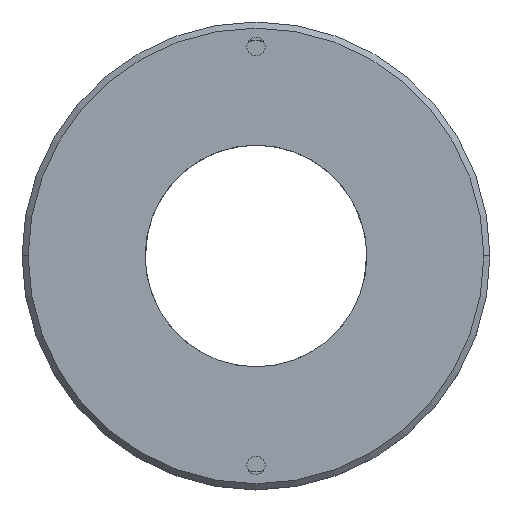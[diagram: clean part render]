
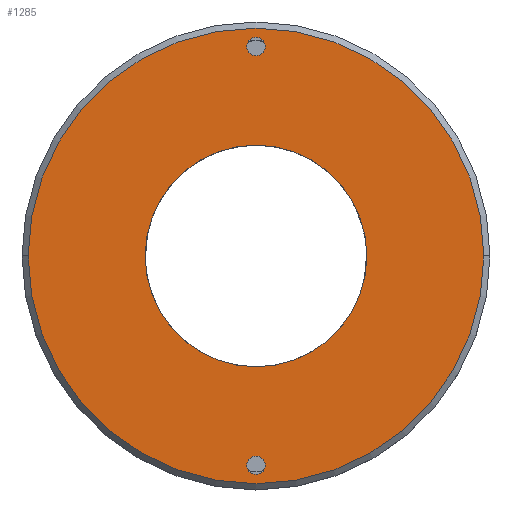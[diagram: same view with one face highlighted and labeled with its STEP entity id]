
A CAD part, top view. The second image highlights one B-rep face of the part: STEP entity #1285.
In plain terms, the highlighted planar face has unit normal (0, 0, 1).
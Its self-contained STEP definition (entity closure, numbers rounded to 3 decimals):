
#37 = DIRECTION ( 'NONE',  ( 0., 0., 1. ) ) ;
#47 = EDGE_LOOP ( 'NONE', ( #765, #622 ) ) ;
#69 = FACE_BOUND ( 'NONE', #901, .T. ) ;
#73 = DIRECTION ( 'NONE',  ( 0., 0., 1. ) ) ;
#80 = DIRECTION ( 'NONE',  ( 1., 0., 0. ) ) ;
#165 = AXIS2_PLACEMENT_3D ( 'NONE', #621, #73, #80 ) ;
#181 = ORIENTED_EDGE ( 'NONE', *, *, #1111, .F. ) ;
#246 = CIRCLE ( 'NONE', #579, 0.75 ) ;
#252 = DIRECTION ( 'NONE',  ( 1., 0., 0. ) ) ;
#276 = VERTEX_POINT ( 'NONE', #1140 ) ;
#278 = DIRECTION ( 'NONE',  ( 0., 0., 1. ) ) ;
#279 = CARTESIAN_POINT ( 'NONE',  ( 7.673, -17.947, 12. ) ) ;
#298 = AXIS2_PLACEMENT_3D ( 'NONE', #1277, #1275, #332 ) ;
#332 = DIRECTION ( 'NONE',  ( 1., 0., 0. ) ) ;
#344 = EDGE_LOOP ( 'NONE', ( #594, #755 ) ) ;
#371 = CARTESIAN_POINT ( 'NONE',  ( 6.923, -0.947, 12. ) ) ;
#372 = CARTESIAN_POINT ( 'NONE',  ( 7.673, 16.053, 12. ) ) ;
#373 = FACE_BOUND ( 'NONE', #344, .T. ) ;
#402 = AXIS2_PLACEMENT_3D ( 'NONE', #912, #917, #812 ) ;
#403 = CIRCLE ( 'NONE', #1389, 0.75 ) ;
#417 = EDGE_CURVE ( 'NONE', #276, #458, #545, .T. ) ;
#424 = CIRCLE ( 'NONE', #1359, 18.5 ) ;
#458 = VERTEX_POINT ( 'NONE', #739 ) ;
#508 = VERTEX_POINT ( 'NONE', #372 ) ;
#519 = VERTEX_POINT ( 'NONE', #279 ) ;
#523 = ORIENTED_EDGE ( 'NONE', *, *, #1193, .F. ) ;
#536 = AXIS2_PLACEMENT_3D ( 'NONE', #1350, #37, #1341 ) ;
#538 = PLANE ( 'NONE',  #165 ) ;
#545 = CIRCLE ( 'NONE', #536, 9. ) ;
#572 = EDGE_CURVE ( 'NONE', #605, #519, #1064, .T. ) ;
#579 = AXIS2_PLACEMENT_3D ( 'NONE', #1225, #1222, #1117 ) ;
#594 = ORIENTED_EDGE ( 'NONE', *, *, #869, .F. ) ;
#600 = ORIENTED_EDGE ( 'NONE', *, *, #417, .F. ) ;
#605 = VERTEX_POINT ( 'NONE', #868 ) ;
#621 = CARTESIAN_POINT ( 'NONE',  ( 6.923, -0.947, 12. ) ) ;
#622 = ORIENTED_EDGE ( 'NONE', *, *, #914, .T. ) ;
#646 = CARTESIAN_POINT ( 'NONE',  ( 25.423, -0.947, 12. ) ) ;
#683 = CIRCLE ( 'NONE', #1218, 0.75 ) ;
#702 = CIRCLE ( 'NONE', #402, 18.5 ) ;
#739 = CARTESIAN_POINT ( 'NONE',  ( -2.077, -0.947, 12. ) ) ;
#755 = ORIENTED_EDGE ( 'NONE', *, *, #572, .F. ) ;
#765 = ORIENTED_EDGE ( 'NONE', *, *, #1056, .T. ) ;
#812 = DIRECTION ( 'NONE',  ( 1., 0., 0. ) ) ;
#868 = CARTESIAN_POINT ( 'NONE',  ( 6.173, -17.947, 12. ) ) ;
#869 = EDGE_CURVE ( 'NONE', #519, #605, #403, .T. ) ;
#901 = EDGE_LOOP ( 'NONE', ( #600, #181 ) ) ;
#912 = CARTESIAN_POINT ( 'NONE',  ( 6.923, -0.947, 12. ) ) ;
#914 = EDGE_CURVE ( 'NONE', #1291, #1372, #702, .T. ) ;
#917 = DIRECTION ( 'NONE',  ( 0., 0., 1. ) ) ;
#930 = DIRECTION ( 'NONE',  ( -1., 0., 0. ) ) ;
#935 = CIRCLE ( 'NONE', #298, 9. ) ;
#950 = CARTESIAN_POINT ( 'NONE',  ( 6.923, -17.947, 12. ) ) ;
#951 = FACE_BOUND ( 'NONE', #1142, .T. ) ;
#972 = DIRECTION ( 'NONE',  ( 0., 0., 1. ) ) ;
#978 = DIRECTION ( 'NONE',  ( -1., 0., 0. ) ) ;
#983 = VERTEX_POINT ( 'NONE', #1335 ) ;
#989 = FACE_OUTER_BOUND ( 'NONE', #47, .T. ) ;
#1006 = DIRECTION ( 'NONE',  ( 0., 0., 1. ) ) ;
#1013 = CARTESIAN_POINT ( 'NONE',  ( 6.923, -17.947, 12. ) ) ;
#1035 = EDGE_CURVE ( 'NONE', #508, #983, #683, .T. ) ;
#1056 = EDGE_CURVE ( 'NONE', #1372, #1291, #424, .T. ) ;
#1064 = CIRCLE ( 'NONE', #1196, 0.75 ) ;
#1111 = EDGE_CURVE ( 'NONE', #458, #276, #935, .T. ) ;
#1117 = DIRECTION ( 'NONE',  ( 1., 0., 0. ) ) ;
#1140 = CARTESIAN_POINT ( 'NONE',  ( 15.923, -0.947, 12. ) ) ;
#1142 = EDGE_LOOP ( 'NONE', ( #1289, #523 ) ) ;
#1179 = CARTESIAN_POINT ( 'NONE',  ( -11.577, -0.947, 12. ) ) ;
#1193 = EDGE_CURVE ( 'NONE', #983, #508, #246, .T. ) ;
#1196 = AXIS2_PLACEMENT_3D ( 'NONE', #950, #972, #978 ) ;
#1218 = AXIS2_PLACEMENT_3D ( 'NONE', #1365, #1344, #1330 ) ;
#1222 = DIRECTION ( 'NONE',  ( 0., 0., 1. ) ) ;
#1225 = CARTESIAN_POINT ( 'NONE',  ( 6.923, 16.053, 12. ) ) ;
#1275 = DIRECTION ( 'NONE',  ( 0., 0., 1. ) ) ;
#1277 = CARTESIAN_POINT ( 'NONE',  ( 6.923, -0.947, 12. ) ) ;
#1285 = ADVANCED_FACE ( 'NONE', ( #989, #373, #951, #69 ), #538, .T. ) ;
#1289 = ORIENTED_EDGE ( 'NONE', *, *, #1035, .F. ) ;
#1291 = VERTEX_POINT ( 'NONE', #646 ) ;
#1330 = DIRECTION ( 'NONE',  ( 1., 0., 0. ) ) ;
#1335 = CARTESIAN_POINT ( 'NONE',  ( 6.173, 16.053, 12. ) ) ;
#1341 = DIRECTION ( 'NONE',  ( 1., 0., 0. ) ) ;
#1344 = DIRECTION ( 'NONE',  ( 0., 0., 1. ) ) ;
#1350 = CARTESIAN_POINT ( 'NONE',  ( 6.923, -0.947, 12. ) ) ;
#1359 = AXIS2_PLACEMENT_3D ( 'NONE', #371, #278, #252 ) ;
#1365 = CARTESIAN_POINT ( 'NONE',  ( 6.923, 16.053, 12. ) ) ;
#1372 = VERTEX_POINT ( 'NONE', #1179 ) ;
#1389 = AXIS2_PLACEMENT_3D ( 'NONE', #1013, #1006, #930 ) ;
